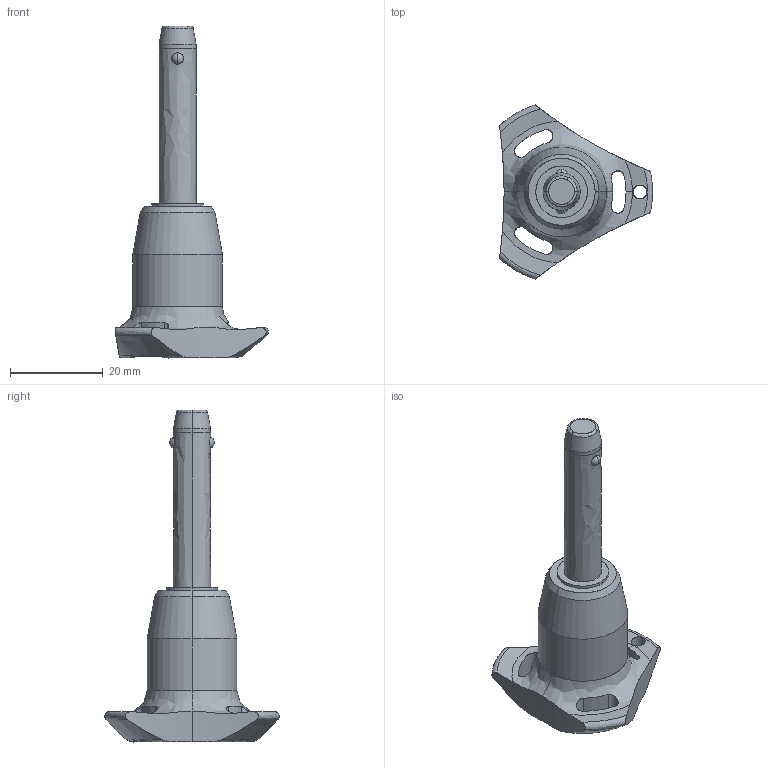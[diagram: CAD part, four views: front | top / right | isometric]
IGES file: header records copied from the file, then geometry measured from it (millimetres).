
Start section: SolidWorks IGES file using analytic representation for surfaces
Global section: file name: C:\Users\ianosborn\Desktop\QR1726_v2\QR1726_v2_20251115_IGES\QR1726.M08-030-T.igs; native system: SolidWorks 2019; preprocessor: SolidWorks 2019; author: IanOsborn; date: 251113.110614; units: millimetre
Bounding box: 33 x 37.51 x 71.5 mm (x, y, z)
Surface area: 4808.7 mm2 (no closed solid volume)
Topology: 0 solids, 0 shells, 68 faces, 1346 edges, 1342 vertices
Faces by surface type: revolution 52, bspline 16
